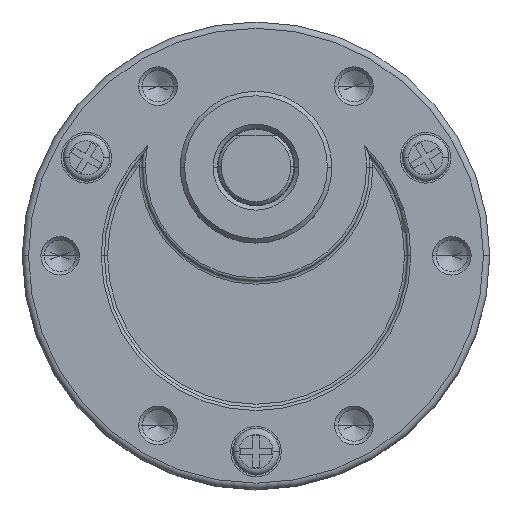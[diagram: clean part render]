
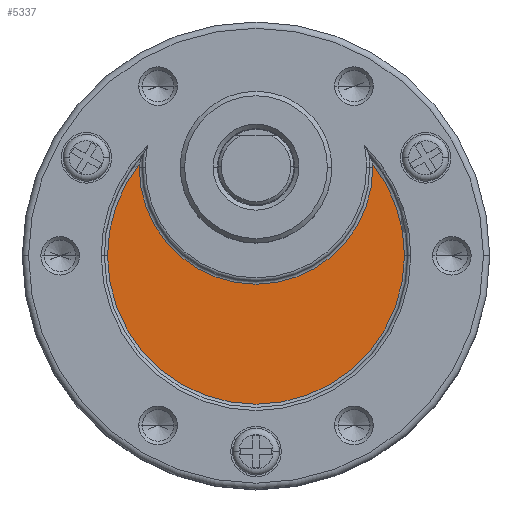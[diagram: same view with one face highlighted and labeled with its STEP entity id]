
A CAD part, top view. The second image highlights one B-rep face of the part: STEP entity #5337.
In plain terms, the highlighted planar face has unit normal (0, 0, 1).
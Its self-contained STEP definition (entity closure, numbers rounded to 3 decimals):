
#638 = CARTESIAN_POINT ( 'NONE',  ( 11.75, 0., -0.5 ) ) ;
#709 = CARTESIAN_POINT ( 'NONE',  ( -11.75, 0., -0.5 ) ) ;
#780 = DIRECTION ( 'NONE',  ( 1., 0., 0. ) ) ;
#781 = DIRECTION ( 'NONE',  ( 0., 0., 1. ) ) ;
#782 = AXIS2_PLACEMENT_3D ( 'NONE', #794, #781, #780 ) ;
#783 = CIRCLE ( 'NONE', #782, 11.75 ) ;
#794 = CARTESIAN_POINT ( 'NONE',  ( 0., 0., -0.5 ) ) ;
#1181 = CIRCLE ( 'NONE', #1214, 11.75 ) ;
#1214 = AXIS2_PLACEMENT_3D ( 'NONE', #1234, #1233, #1232 ) ;
#1232 = DIRECTION ( 'NONE',  ( 1., 0., 0. ) ) ;
#1233 = DIRECTION ( 'NONE',  ( 0., 0., 1. ) ) ;
#1234 = CARTESIAN_POINT ( 'NONE',  ( 0., 0., -0.5 ) ) ;
#1265 = CARTESIAN_POINT ( 'NONE',  ( 9.247, 7.25, -0.5 ) ) ;
#3121 = AXIS2_PLACEMENT_3D ( 'NONE', #3204, #3203, #3202 ) ;
#3166 = PLANE ( 'NONE',  #3121 ) ;
#3172 = FACE_OUTER_BOUND ( 'NONE', #5335, .T. ) ;
#3202 = DIRECTION ( 'NONE',  ( 1., 0., 0. ) ) ;
#3203 = DIRECTION ( 'NONE',  ( 0., 0., 1. ) ) ;
#3204 = CARTESIAN_POINT ( 'NONE',  ( 0., 3.5, -0.5 ) ) ;
#3321 = AXIS2_PLACEMENT_3D ( 'NONE', #3338, #3375, #3362 ) ;
#3338 = CARTESIAN_POINT ( 'NONE',  ( 0., 7., -0.5 ) ) ;
#3342 = CIRCLE ( 'NONE', #3321, 9.25 ) ;
#3346 = CIRCLE ( 'NONE', #3372, 11.75 ) ;
#3362 = DIRECTION ( 'NONE',  ( 1., 0., 0. ) ) ;
#3369 = DIRECTION ( 'NONE',  ( 1., 0., 0. ) ) ;
#3370 = DIRECTION ( 'NONE',  ( 0., 0., 1. ) ) ;
#3371 = CARTESIAN_POINT ( 'NONE',  ( 0., 0., -0.5 ) ) ;
#3372 = AXIS2_PLACEMENT_3D ( 'NONE', #3371, #3370, #3369 ) ;
#3375 = DIRECTION ( 'NONE',  ( 0., 0., -1. ) ) ;
#3376 = CARTESIAN_POINT ( 'NONE',  ( -9.247, 7.25, -0.5 ) ) ;
#4292 = VERTEX_POINT ( 'NONE', #7319 ) ;
#4339 = EDGE_CURVE ( 'NONE', #4358, #4292, #7416, .T. ) ;
#4358 = VERTEX_POINT ( 'NONE', #7408 ) ;
#4363 = EDGE_CURVE ( 'NONE', #4906, #4358, #7426, .T. ) ;
#4703 = VERTEX_POINT ( 'NONE', #638 ) ;
#4712 = VERTEX_POINT ( 'NONE', #709 ) ;
#4756 = EDGE_CURVE ( 'NONE', #4712, #4703, #783, .T. ) ;
#4880 = EDGE_CURVE ( 'NONE', #4703, #4906, #1181, .T. ) ;
#4906 = VERTEX_POINT ( 'NONE', #1265 ) ;
#5335 = EDGE_LOOP ( 'NONE', ( #5360, #5383, #5422, #5378, #5382, #5381 ) ) ;
#5337 = ADVANCED_FACE ( 'NONE', ( #3172 ), #3166, .T. ) ;
#5360 = ORIENTED_EDGE ( 'NONE', *, *, #4363, .T. ) ;
#5378 = ORIENTED_EDGE ( 'NONE', *, *, #5421, .T. ) ;
#5381 = ORIENTED_EDGE ( 'NONE', *, *, #4880, .T. ) ;
#5382 = ORIENTED_EDGE ( 'NONE', *, *, #4756, .T. ) ;
#5383 = ORIENTED_EDGE ( 'NONE', *, *, #4339, .T. ) ;
#5419 = VERTEX_POINT ( 'NONE', #3376 ) ;
#5421 = EDGE_CURVE ( 'NONE', #5419, #4712, #3346, .T. ) ;
#5422 = ORIENTED_EDGE ( 'NONE', *, *, #5423, .T. ) ;
#5423 = EDGE_CURVE ( 'NONE', #4292, #5419, #3342, .T. ) ;
#7319 = CARTESIAN_POINT ( 'NONE',  ( -9.25, 7., -0.5 ) ) ;
#7408 = CARTESIAN_POINT ( 'NONE',  ( 9.25, 7., -0.5 ) ) ;
#7410 = DIRECTION ( 'NONE',  ( 1., 0., 0. ) ) ;
#7411 = DIRECTION ( 'NONE',  ( 0., 0., -1. ) ) ;
#7412 = AXIS2_PLACEMENT_3D ( 'NONE', #7414, #7411, #7410 ) ;
#7414 = CARTESIAN_POINT ( 'NONE',  ( 0., 7., -0.5 ) ) ;
#7416 = CIRCLE ( 'NONE', #7412, 9.25 ) ;
#7421 = DIRECTION ( 'NONE',  ( 1., 0., 0. ) ) ;
#7422 = DIRECTION ( 'NONE',  ( 0., 0., -1. ) ) ;
#7423 = CARTESIAN_POINT ( 'NONE',  ( 0., 7., -0.5 ) ) ;
#7424 = AXIS2_PLACEMENT_3D ( 'NONE', #7423, #7422, #7421 ) ;
#7426 = CIRCLE ( 'NONE', #7424, 9.25 ) ;
